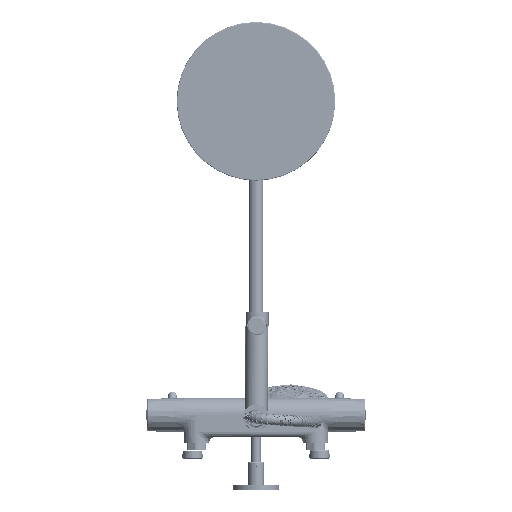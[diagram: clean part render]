
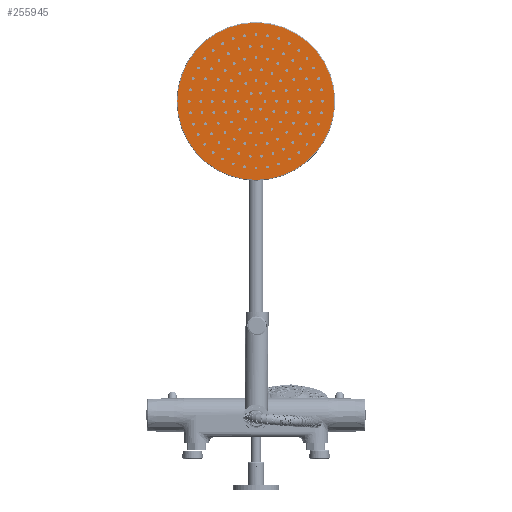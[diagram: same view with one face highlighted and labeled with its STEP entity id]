
A CAD part, front view. The second image highlights one B-rep face of the part: STEP entity #255945.
In plain terms, the highlighted planar face has unit normal (0, -1, 0).
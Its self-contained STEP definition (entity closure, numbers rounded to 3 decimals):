
#255874=CARTESIAN_POINT('',(0.,1114.5,400.));
#255875=DIRECTION('',(0.,1.,0.));
#255876=DIRECTION('',(1.,0.,0.));
#255877=AXIS2_PLACEMENT_3D('',#255874,#255875,#255876);
#255879=CARTESIAN_POINT('',(0.,1114.5,400.));
#255880=DIRECTION('',(0.,1.,0.));
#255881=DIRECTION('',(-1.,0.,0.));
#255882=AXIS2_PLACEMENT_3D('',#255879,#255880,#255881);
#255930=CARTESIAN_POINT('',(99.,1114.5,400.));
#255931=CARTESIAN_POINT('',(-99.,1114.5,400.));
#255932=VERTEX_POINT('',#255930);
#255933=VERTEX_POINT('',#255931);
#255934=CARTESIAN_POINT('',(0.,1114.5,400.));
#255935=DIRECTION('',(0.,-1.,0.));
#255936=DIRECTION('',(-1.,0.,0.));
#255937=AXIS2_PLACEMENT_3D('',#255934,#255935,#255936);
#255938=PLANE('',#255937);
#255940=ORIENTED_EDGE('',*,*,#255939,.T.);
#255942=ORIENTED_EDGE('',*,*,#255941,.T.);
#255943=EDGE_LOOP('',(#255940,#255942));
#255944=FACE_OUTER_BOUND('',#255943,.F.);
#255945=ADVANCED_FACE('',(#255944),#255938,.T.);
#255878=CIRCLE('',#255877,99.);
#255883=CIRCLE('',#255882,99.);
#255939=EDGE_CURVE('',#255932,#255933,#255878,.T.);
#255941=EDGE_CURVE('',#255933,#255932,#255883,.T.);
